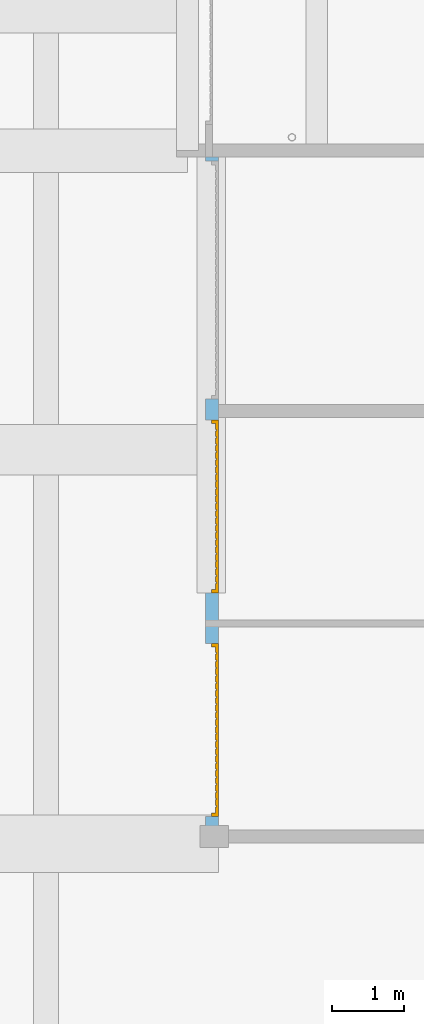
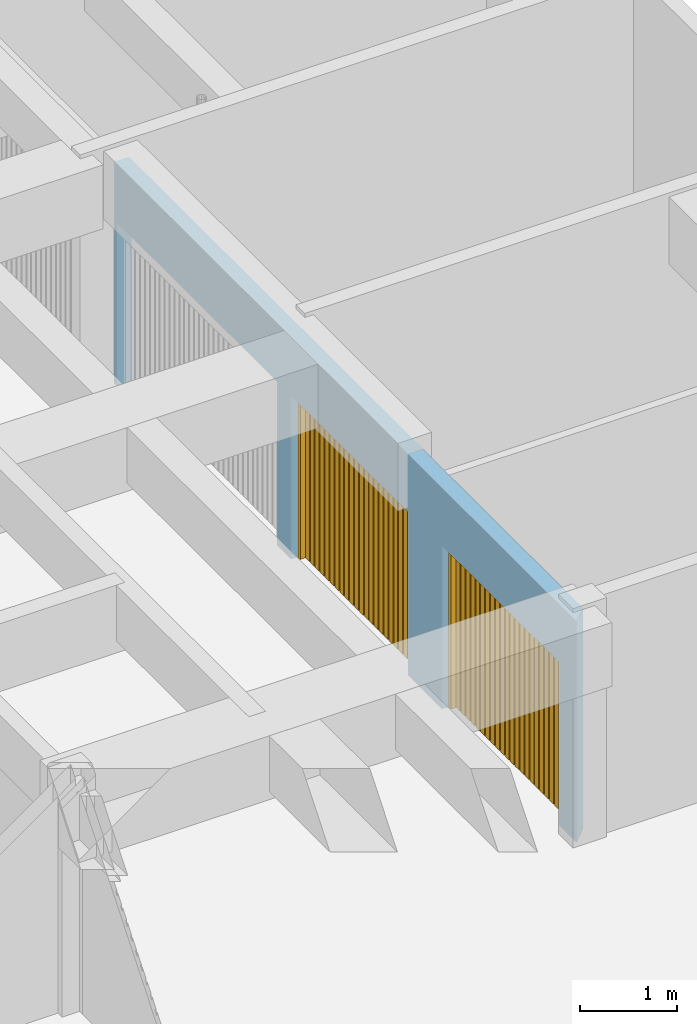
# One storey, part 8 of 41: 2 doors, 3 openings, plus 1 element that does not belong to this part.
"""IFC2X3 building model written with IfcOpenShell, lengths in millimetres."""

from ifc_helpers import new_model, entity, si_unit, converted_unit, derived_unit, money_unit, direction, frame, origin_with_axes, origin_2d_with_axis, place, context, subcontext, project, spatial, polyline, rectangle, outline, extrude, faceted_brep, source, transform, mapped, material, layer, layer_set, layer_usage, type_object, element, fill, save


model = new_model("IFC2X3")

# Units and contexts
model_context = context("Model", 3, precision=0.01, world=origin_with_axes(), true_north=direction((0.0, 1.0)))
body_context = subcontext(model_context, "Body", "Model", "MODEL_VIEW")
ifc_project = project(units=[si_unit("LENGTHUNIT", "METRE", prefix="MILLI"), si_unit("AREAUNIT", "SQUARE_METRE"), si_unit("VOLUMEUNIT", "CUBIC_METRE"), converted_unit("PLANEANGLEUNIT", "DEGREE", entity("IfcPlaneAngleMeasure", 0.0174532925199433), si_unit("PLANEANGLEUNIT", "RADIAN"), dimensions=[0, 0, 0, 0, 0, 0, 0]), money_unit("USD"), converted_unit("TIMEUNIT", "Year", entity("IfcTimeMeasure", 31557600.0), si_unit("TIMEUNIT", "SECOND"), dimensions=[0, 0, 1, 0, 0, 0, 0]), si_unit("MASSUNIT", "GRAM", prefix="KILO"), si_unit("THERMODYNAMICTEMPERATUREUNIT", "DEGREE_CELSIUS"), si_unit("LUMINOUSINTENSITYUNIT", "LUMEN"), si_unit("ENERGYUNIT", "JOULE", prefix="MEGA"), derived_unit("THERMALCONDUCTANCEUNIT", [(si_unit("POWERUNIT", "WATT"), 1), (si_unit("LENGTHUNIT", "METRE"), -1), (si_unit("THERMODYNAMICTEMPERATUREUNIT", "KELVIN"), -1)]), derived_unit("SPECIFICHEATCAPACITYUNIT", [(si_unit("ENERGYUNIT", "JOULE"), 1), (si_unit("MASSUNIT", "GRAM", prefix="KILO"), -1), (si_unit("THERMODYNAMICTEMPERATUREUNIT", "KELVIN"), -1)]), derived_unit("MASSDENSITYUNIT", [(si_unit("MASSUNIT", "GRAM", prefix="KILO"), 1), (si_unit("VOLUMEUNIT", "CUBIC_METRE"), -1)])], contexts=[model_context])

# Site, building, storey
site_placement = place(None, origin_with_axes())
site = spatial("IfcSite", under=ifc_project, at=site_placement, Name="Site", CompositionType="ELEMENT")
building_placement = place(site_placement, origin_with_axes())
building = spatial("IfcBuilding", under=site, at=building_placement, Name="Bâtiment", CompositionType="ELEMENT")
storey_placement = place(building_placement, origin_with_axes())
storey = spatial("IfcBuildingStorey", under=building, at=storey_placement, Name="sousol", CompositionType="ELEMENT", Elevation=0.0)

# Wall, openings, doors
ifc_material = material(Name="Parpaing 314940890")
ifc_layer = layer(ifc_material, 180.0, ventilated="UNKNOWN")
ifc_layer_set = layer_set([ifc_layer], Name="Beton  18 0170347028")
ifc_layer_usage = layer_usage(ifc_layer_set, "AXIS2", "POSITIVE", 0.0)
wall_type = type_object("IfcWallType", Name="Beton  18 0170347028 180", PredefinedType="NOTDEFINED")
wall_placement = place(storey_placement, frame((2228014.233343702, -637233.3438947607, 0.0), z_axis=(0.0, 0.0, 1.0), x_axis=(-5.66308576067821e-10, -1.0, 0.0)))
wall = element("IfcWallStandardCase", 1, at=wall_placement, inside=storey, type_object=wall_type, material=ifc_layer_usage, Name="Mur-133", context=body_context, shape_type="SweptSolid", body=[
    extrude(outline(polyline([(180.0000000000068, -1.13686837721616e-10), (9685.41781726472, 0.0), (9505.417817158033, 179.99999999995), (179.9999998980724, 179.9999999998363), (180.0000000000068, -1.13686837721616e-10)])), origin_with_axes(), (0.0, 0.0, 1.0), 2769.999999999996),
])
opening_1_placement = place(wall_placement, frame((1885.871553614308, -2.273736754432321e-10, 0.0), z_axis=(0.0, 0.0, 1.0), x_axis=(1.0, 0.0, 0.0)))
element("IfcOpeningElement", 2, at=opening_1_placement, cuts=wall, Name="Por-296", context=body_context, shape_type="SweptSolid", body=[
    extrude(rectangle(XDim=3300.000000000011, YDim=2050.0, at=origin_2d_with_axis()), frame((-1.01934460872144e-07, 180.0000010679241, 1025.0), z_axis=(5.663083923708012e-10, -1.0, 0.0), x_axis=(1.0, 5.663083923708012e-10, 0.0)), (0.0, 0.0, -1.0), 180.0),
    extrude(rectangle(XDim=3300.000000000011, YDim=2050.0, at=origin_2d_with_axis()), frame((-1.01934460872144e-07, 180.0000010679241, 1025.0), z_axis=(-5.663083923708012e-10, 1.0, 0.0), x_axis=(1.0, 5.663083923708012e-10, 0.0)), (0.0, 0.0, -1.0), 180.0),
])
opening_2_placement = place(wall_placement, frame((8118.916970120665, -3.410605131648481e-10, 0.0), z_axis=(0.0, 0.0, 1.0), x_axis=(1.0, 0.0, 0.0)))
opening_2 = element("IfcOpeningElement", 3, at=opening_2_placement, cuts=wall, Name="Por-296", context=body_context, shape_type="SweptSolid", body=[
    extrude(rectangle(XDim=2400.000000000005, YDim=2050.0, at=origin_2d_with_axis()), frame((-1.01934460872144e-07, 180.0000045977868, 1025.0), z_axis=(5.663083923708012e-10, -1.0, 0.0), x_axis=(1.0, 5.663083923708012e-10, 0.0)), (0.0, 0.0, -1.0), 180.0),
    extrude(rectangle(XDim=2400.000000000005, YDim=2050.0, at=origin_2d_with_axis()), frame((-1.01934460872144e-07, 180.0000045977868, 1025.0), z_axis=(-5.663083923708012e-10, 1.0, 0.0), x_axis=(1.0, 5.663083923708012e-10, 0.0)), (0.0, 0.0, -1.0), 180.0),
])
opening_3_placement = place(wall_placement, frame((5021.981643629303, -2.273736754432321e-10, 0.0), z_axis=(0.0, 0.0, 1.0), x_axis=(1.0, 0.0, 0.0)))
opening_3 = element("IfcOpeningElement", 4, at=opening_3_placement, cuts=wall, Name="Por-296", context=body_context, shape_type="SweptSolid", body=[
    extrude(rectangle(XDim=2400.000000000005, YDim=2050.0, at=origin_2d_with_axis()), frame((-1.01934460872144e-07, 180.0000028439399, 1025.0), z_axis=(5.663083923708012e-10, -1.0, 0.0), x_axis=(1.0, 5.663083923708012e-10, 0.0)), (0.0, 0.0, -1.0), 180.0),
    extrude(rectangle(XDim=2400.000000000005, YDim=2050.0, at=origin_2d_with_axis()), frame((-1.01934460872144e-07, 180.0000028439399, 1025.0), z_axis=(-5.663083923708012e-10, 1.0, 0.0), x_axis=(1.0, 5.663083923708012e-10, 0.0)), (0.0, 0.0, -1.0), 180.0),
])
door_style = type_object("IfcDoorStyle", Name="P_garage 1", ConstructionType="NOTDEFINED", OperationType="NOTDEFINED", ParameterTakesPrecedence=False, Sizeable=False)
shared_shape = source(origin_with_axes(), body_context, "Body", "Brep", [
    faceted_brep([(1200.0, 0.0, 0.0), (1200.0, -99.99999999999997, 0.0), (1150.0, -99.99999999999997, 0.0), (1150.0, 0.0, 0.0), (1200.0, 0.0, 2050.0), (1200.0, -99.99999999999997, 2050.0), (-1200.0, -99.99999999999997, 2050.0), (-1200.0, -99.99999999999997, 0.0), (-1150.0, -99.99999999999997, 0.0), (-1150.0, -99.99999999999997, 2000.0), (1150.0, -99.99999999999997, 2000.0), (1150.0, 0.0, 2000.0), (-1150.0, 0.0, 2000.0), (-1150.0, 0.0, 0.0), (-1200.0, 0.0, 0.0), (-1200.0, 0.0, 2050.0)], [[[0, 1, 2, 3]], [[4, 5, 1, 0]], [[1, 5, 6, 7, 8, 9, 10, 2]], [[3, 2, 10, 11]], [[0, 3, 11, 12, 13, 14, 15, 4]], [[15, 6, 5, 4]], [[14, 7, 6, 15]], [[13, 8, 7, 14]], [[12, 9, 8, 13]], [[11, 10, 9, 12]]]),
    faceted_brep([(1069.130434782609, -39.99999999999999, 0.0), (1069.130434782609, -39.99999999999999, 2000.0), (1069.130434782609, -26.66666666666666, 2000.0), (1069.130434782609, -26.66666666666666, 0.0), (1150.0, -39.99999999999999, 0.0), (1150.0, -39.99999999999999, 2000.0), (1150.0, -26.66666666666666, 2000.0), (1150.0, -26.66666666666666, 0.0)], [[[0, 1, 2, 3]], [[0, 4, 5, 1]], [[1, 5, 6, 2]], [[3, 2, 6, 7]], [[4, 0, 3, 7]], [[5, 4, 7, 6]]]),
    faceted_brep([(968.2608695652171, -39.99999999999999, 0.0), (968.2608695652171, -39.99999999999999, 2000.0), (968.2608695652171, -26.66666666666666, 2000.0), (968.2608695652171, -26.66666666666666, 0.0), (1049.130434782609, -39.99999999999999, 0.0), (1049.130434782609, -39.99999999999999, 2000.0), (1049.130434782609, -26.66666666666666, 2000.0), (1049.130434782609, -26.66666666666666, 0.0)], [[[0, 1, 2, 3]], [[0, 4, 5, 1]], [[1, 5, 6, 2]], [[3, 2, 6, 7]], [[4, 0, 3, 7]], [[5, 4, 7, 6]]]),
    faceted_brep([(867.3913043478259, -39.99999999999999, 0.0), (867.3913043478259, -39.99999999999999, 2000.0), (867.3913043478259, -26.66666666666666, 2000.0), (867.3913043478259, -26.66666666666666, 0.0), (948.260869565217, -39.99999999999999, 0.0), (948.260869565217, -39.99999999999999, 2000.0), (948.260869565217, -26.66666666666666, 2000.0), (948.260869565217, -26.66666666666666, 0.0)], [[[0, 1, 2, 3]], [[0, 4, 5, 1]], [[1, 5, 6, 2]], [[3, 2, 6, 7]], [[4, 0, 3, 7]], [[5, 4, 7, 6]]]),
    faceted_brep([(766.5217391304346, -39.99999999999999, 0.0), (766.5217391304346, -39.99999999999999, 2000.0), (766.5217391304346, -26.66666666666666, 2000.0), (766.5217391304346, -26.66666666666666, 0.0), (847.3913043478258, -39.99999999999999, 0.0), (847.3913043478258, -39.99999999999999, 2000.0), (847.3913043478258, -26.66666666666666, 2000.0), (847.3913043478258, -26.66666666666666, 0.0)], [[[0, 1, 2, 3]], [[0, 4, 5, 1]], [[1, 5, 6, 2]], [[3, 2, 6, 7]], [[4, 0, 3, 7]], [[5, 4, 7, 6]]]),
    faceted_brep([(665.6521739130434, -39.99999999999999, 0.0), (665.6521739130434, -39.99999999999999, 2000.0), (665.6521739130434, -26.66666666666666, 2000.0), (665.6521739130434, -26.66666666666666, 0.0), (746.5217391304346, -39.99999999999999, 0.0), (746.5217391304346, -39.99999999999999, 2000.0), (746.5217391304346, -26.66666666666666, 2000.0), (746.5217391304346, -26.66666666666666, 0.0)], [[[0, 1, 2, 3]], [[0, 4, 5, 1]], [[1, 5, 6, 2]], [[3, 2, 6, 7]], [[4, 0, 3, 7]], [[5, 4, 7, 6]]]),
    faceted_brep([(564.7826086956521, -39.99999999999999, 0.0), (564.7826086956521, -39.99999999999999, 2000.0), (564.7826086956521, -26.66666666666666, 2000.0), (564.7826086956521, -26.66666666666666, 0.0), (645.6521739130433, -39.99999999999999, 0.0), (645.6521739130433, -39.99999999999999, 2000.0), (645.6521739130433, -26.66666666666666, 2000.0), (645.6521739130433, -26.66666666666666, 0.0)], [[[0, 1, 2, 3]], [[0, 4, 5, 1]], [[1, 5, 6, 2]], [[3, 2, 6, 7]], [[4, 0, 3, 7]], [[5, 4, 7, 6]]]),
    faceted_brep([(463.9130434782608, -39.99999999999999, 0.0), (463.9130434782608, -39.99999999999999, 2000.0), (463.9130434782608, -26.66666666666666, 2000.0), (463.9130434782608, -26.66666666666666, 0.0), (544.782608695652, -39.99999999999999, 0.0), (544.782608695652, -39.99999999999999, 2000.0), (544.782608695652, -26.66666666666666, 2000.0), (544.782608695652, -26.66666666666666, 0.0)], [[[0, 1, 2, 3]], [[0, 4, 5, 1]], [[1, 5, 6, 2]], [[3, 2, 6, 7]], [[4, 0, 3, 7]], [[5, 4, 7, 6]]]),
    faceted_brep([(363.0434782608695, -39.99999999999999, 0.0), (363.0434782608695, -39.99999999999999, 2000.0), (363.0434782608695, -26.66666666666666, 2000.0), (363.0434782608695, -26.66666666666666, 0.0), (443.9130434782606, -39.99999999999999, 0.0), (443.9130434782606, -39.99999999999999, 2000.0), (443.9130434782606, -26.66666666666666, 2000.0), (443.9130434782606, -26.66666666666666, 0.0)], [[[0, 1, 2, 3]], [[0, 4, 5, 1]], [[1, 5, 6, 2]], [[3, 2, 6, 7]], [[4, 0, 3, 7]], [[5, 4, 7, 6]]]),
    faceted_brep([(262.1739130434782, -39.99999999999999, 0.0), (262.1739130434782, -39.99999999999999, 2000.0), (262.1739130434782, -26.66666666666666, 2000.0), (262.1739130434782, -26.66666666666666, 0.0), (343.0434782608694, -39.99999999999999, 0.0), (343.0434782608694, -39.99999999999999, 2000.0), (343.0434782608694, -26.66666666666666, 2000.0), (343.0434782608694, -26.66666666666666, 0.0)], [[[0, 1, 2, 3]], [[0, 4, 5, 1]], [[1, 5, 6, 2]], [[3, 2, 6, 7]], [[4, 0, 3, 7]], [[5, 4, 7, 6]]]),
    faceted_brep([(161.3043478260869, -39.99999999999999, 0.0), (161.3043478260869, -39.99999999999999, 2000.0), (161.3043478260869, -26.66666666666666, 2000.0), (161.3043478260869, -26.66666666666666, 0.0), (242.1739130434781, -39.99999999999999, 0.0), (242.1739130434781, -39.99999999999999, 2000.0), (242.1739130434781, -26.66666666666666, 2000.0), (242.1739130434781, -26.66666666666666, 0.0)], [[[0, 1, 2, 3]], [[0, 4, 5, 1]], [[1, 5, 6, 2]], [[3, 2, 6, 7]], [[4, 0, 3, 7]], [[5, 4, 7, 6]]]),
    faceted_brep([(60.43478260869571, -39.99999999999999, 0.0), (60.43478260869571, -39.99999999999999, 2000.0), (60.43478260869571, -26.66666666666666, 2000.0), (60.43478260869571, -26.66666666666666, 0.0), (141.3043478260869, -39.99999999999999, 0.0), (141.3043478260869, -39.99999999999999, 2000.0), (141.3043478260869, -26.66666666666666, 2000.0), (141.3043478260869, -26.66666666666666, 0.0)], [[[0, 1, 2, 3]], [[0, 4, 5, 1]], [[1, 5, 6, 2]], [[3, 2, 6, 7]], [[4, 0, 3, 7]], [[5, 4, 7, 6]]]),
    faceted_brep([(-40.43478260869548, -39.99999999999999, 0.0), (-40.43478260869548, -39.99999999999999, 2000.0), (-40.43478260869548, -26.66666666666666, 2000.0), (-40.43478260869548, -26.66666666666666, 0.0), (40.4347826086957, -39.99999999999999, 0.0), (40.4347826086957, -39.99999999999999, 2000.0), (40.4347826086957, -26.66666666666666, 2000.0), (40.4347826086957, -26.66666666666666, 0.0)], [[[0, 1, 2, 3]], [[0, 4, 5, 1]], [[1, 5, 6, 2]], [[3, 2, 6, 7]], [[4, 0, 3, 7]], [[5, 4, 7, 6]]]),
    faceted_brep([(-141.3043478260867, -39.99999999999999, 0.0), (-141.3043478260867, -39.99999999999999, 2000.0), (-141.3043478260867, -26.66666666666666, 2000.0), (-141.3043478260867, -26.66666666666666, 0.0), (-60.43478260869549, -39.99999999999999, 0.0), (-60.43478260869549, -39.99999999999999, 2000.0), (-60.43478260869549, -26.66666666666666, 2000.0), (-60.43478260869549, -26.66666666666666, 0.0)], [[[0, 1, 2, 3]], [[0, 4, 5, 1]], [[1, 5, 6, 2]], [[3, 2, 6, 7]], [[4, 0, 3, 7]], [[5, 4, 7, 6]]]),
    faceted_brep([(-242.1739130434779, -39.99999999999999, 0.0), (-242.1739130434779, -39.99999999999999, 2000.0), (-242.1739130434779, -26.66666666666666, 2000.0), (-242.1739130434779, -26.66666666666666, 0.0), (-161.3043478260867, -39.99999999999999, 0.0), (-161.3043478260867, -39.99999999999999, 2000.0), (-161.3043478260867, -26.66666666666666, 2000.0), (-161.3043478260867, -26.66666666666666, 0.0)], [[[0, 1, 2, 3]], [[0, 4, 5, 1]], [[1, 5, 6, 2]], [[3, 2, 6, 7]], [[4, 0, 3, 7]], [[5, 4, 7, 6]]]),
    faceted_brep([(-343.0434782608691, -39.99999999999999, 0.0), (-343.0434782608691, -39.99999999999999, 2000.0), (-343.0434782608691, -26.66666666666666, 2000.0), (-343.0434782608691, -26.66666666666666, 0.0), (-262.1739130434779, -39.99999999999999, 0.0), (-262.1739130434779, -39.99999999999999, 2000.0), (-262.1739130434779, -26.66666666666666, 2000.0), (-262.1739130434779, -26.66666666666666, 0.0)], [[[0, 1, 2, 3]], [[0, 4, 5, 1]], [[1, 5, 6, 2]], [[3, 2, 6, 7]], [[4, 0, 3, 7]], [[5, 4, 7, 6]]]),
    faceted_brep([(-443.9130434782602, -39.99999999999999, 0.0), (-443.9130434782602, -39.99999999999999, 2000.0), (-443.9130434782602, -26.66666666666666, 2000.0), (-443.9130434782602, -26.66666666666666, 0.0), (-363.0434782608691, -39.99999999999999, 0.0), (-363.0434782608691, -39.99999999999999, 2000.0), (-363.0434782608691, -26.66666666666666, 2000.0), (-363.0434782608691, -26.66666666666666, 0.0)], [[[0, 1, 2, 3]], [[0, 4, 5, 1]], [[1, 5, 6, 2]], [[3, 2, 6, 7]], [[4, 0, 3, 7]], [[5, 4, 7, 6]]]),
    faceted_brep([(-544.7826086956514, -39.99999999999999, 0.0), (-544.7826086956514, -39.99999999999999, 2000.0), (-544.7826086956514, -26.66666666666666, 2000.0), (-544.7826086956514, -26.66666666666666, 0.0), (-463.9130434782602, -39.99999999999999, 0.0), (-463.9130434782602, -39.99999999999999, 2000.0), (-463.9130434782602, -26.66666666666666, 2000.0), (-463.9130434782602, -26.66666666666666, 0.0)], [[[0, 1, 2, 3]], [[0, 4, 5, 1]], [[1, 5, 6, 2]], [[3, 2, 6, 7]], [[4, 0, 3, 7]], [[5, 4, 7, 6]]]),
    faceted_brep([(-645.6521739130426, -39.99999999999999, 0.0), (-645.6521739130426, -39.99999999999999, 2000.0), (-645.6521739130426, -26.66666666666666, 2000.0), (-645.6521739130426, -26.66666666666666, 0.0), (-564.7826086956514, -39.99999999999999, 0.0), (-564.7826086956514, -39.99999999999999, 2000.0), (-564.7826086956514, -26.66666666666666, 2000.0), (-564.7826086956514, -26.66666666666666, 0.0)], [[[0, 1, 2, 3]], [[0, 4, 5, 1]], [[1, 5, 6, 2]], [[3, 2, 6, 7]], [[4, 0, 3, 7]], [[5, 4, 7, 6]]]),
    faceted_brep([(-746.5217391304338, -39.99999999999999, 0.0), (-746.5217391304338, -39.99999999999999, 2000.0), (-746.5217391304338, -26.66666666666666, 2000.0), (-746.5217391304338, -26.66666666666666, 0.0), (-665.6521739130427, -39.99999999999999, 0.0), (-665.6521739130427, -39.99999999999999, 2000.0), (-665.6521739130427, -26.66666666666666, 2000.0), (-665.6521739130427, -26.66666666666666, 0.0)], [[[0, 1, 2, 3]], [[0, 4, 5, 1]], [[1, 5, 6, 2]], [[3, 2, 6, 7]], [[4, 0, 3, 7]], [[5, 4, 7, 6]]]),
    faceted_brep([(-847.391304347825, -39.99999999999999, 0.0), (-847.391304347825, -39.99999999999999, 2000.0), (-847.391304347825, -26.66666666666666, 2000.0), (-847.391304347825, -26.66666666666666, 0.0), (-766.5217391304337, -39.99999999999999, 0.0), (-766.5217391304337, -39.99999999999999, 2000.0), (-766.5217391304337, -26.66666666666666, 2000.0), (-766.5217391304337, -26.66666666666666, 0.0)], [[[0, 1, 2, 3]], [[0, 4, 5, 1]], [[1, 5, 6, 2]], [[3, 2, 6, 7]], [[4, 0, 3, 7]], [[5, 4, 7, 6]]]),
    faceted_brep([(-948.2608695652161, -39.99999999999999, 0.0), (-948.2608695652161, -39.99999999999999, 2000.0), (-948.2608695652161, -26.66666666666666, 2000.0), (-948.2608695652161, -26.66666666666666, 0.0), (-867.391304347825, -39.99999999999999, 0.0), (-867.391304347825, -39.99999999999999, 2000.0), (-867.391304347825, -26.66666666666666, 2000.0), (-867.391304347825, -26.66666666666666, 0.0)], [[[0, 1, 2, 3]], [[0, 4, 5, 1]], [[1, 5, 6, 2]], [[3, 2, 6, 7]], [[4, 0, 3, 7]], [[5, 4, 7, 6]]]),
    faceted_brep([(-1049.130434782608, -39.99999999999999, 0.0), (-1049.130434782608, -39.99999999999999, 2000.0), (-1049.130434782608, -26.66666666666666, 2000.0), (-1049.130434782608, -26.66666666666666, 0.0), (-968.2608695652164, -39.99999999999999, 0.0), (-968.2608695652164, -39.99999999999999, 2000.0), (-968.2608695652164, -26.66666666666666, 2000.0), (-968.2608695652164, -26.66666666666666, 0.0)], [[[0, 1, 2, 3]], [[0, 4, 5, 1]], [[1, 5, 6, 2]], [[3, 2, 6, 7]], [[4, 0, 3, 7]], [[5, 4, 7, 6]]]),
    faceted_brep([(-1149.999999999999, -39.99999999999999, 0.0), (-1149.999999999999, -39.99999999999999, 2000.0), (-1149.999999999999, -26.66666666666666, 2000.0), (-1149.999999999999, -26.66666666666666, 0.0), (-1069.130434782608, -39.99999999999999, 0.0), (-1069.130434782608, -39.99999999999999, 2000.0), (-1069.130434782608, -26.66666666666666, 2000.0), (-1069.130434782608, -26.66666666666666, 0.0)], [[[0, 1, 2, 3]], [[0, 4, 5, 1]], [[1, 5, 6, 2]], [[3, 2, 6, 7]], [[4, 0, 3, 7]], [[5, 4, 7, 6]]]),
    faceted_brep([(1150.0, -26.66666666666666, 0.0), (-1150.0, -26.66666666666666, 0.0), (-1150.0, 0.0, 0.0), (1150.0, 0.0, 0.0), (1150.0, -26.66666666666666, 2000.0), (-1150.0, -26.66666666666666, 2000.0), (-1150.0, 0.0, 2000.0), (1150.0, 0.0, 2000.0)], [[[0, 1, 2, 3]], [[0, 4, 5, 1]], [[1, 5, 6, 2]], [[3, 2, 6, 7]], [[4, 0, 3, 7]], [[5, 4, 7, 6]]]),
])
door_1_placement = place(opening_3_placement, frame((-1199.99999999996, 2.273736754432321e-10, 0.0), z_axis=(0.0, 0.0, 1.0), x_axis=(1.0, 0.0, 0.0)))
door_1 = element("IfcDoor", 5, at=door_1_placement, inside=storey, type_object=door_style, Name="Por-296", OverallHeight=2050.0, OverallWidth=2400.0, context=body_context, shape_type="MappedRepresentation", body=[
    mapped(shared_shape, transform((1199.999999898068, 180.0000028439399, 0.0))),
])
fill(opening_3, door_1)
door_2_placement = place(opening_2_placement, frame((-1200.00000000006, 0.0, 0.0), z_axis=(0.0, 0.0, 1.0), x_axis=(1.0, 0.0, 0.0)))
door_2 = element("IfcDoor", 6, at=door_2_placement, inside=storey, type_object=door_style, Name="Por-296", OverallHeight=2050.0, OverallWidth=2400.0, context=body_context, shape_type="MappedRepresentation", body=[
    mapped(shared_shape, transform((1199.999999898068, 180.0000045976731, 0.0))),
])
fill(opening_2, door_2)

save(model, "model.ifc")
